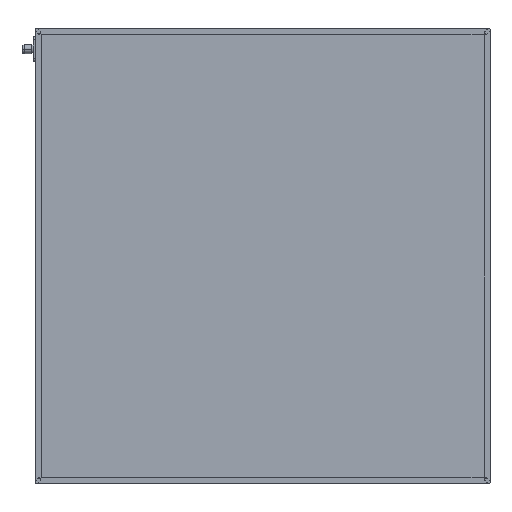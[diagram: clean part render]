
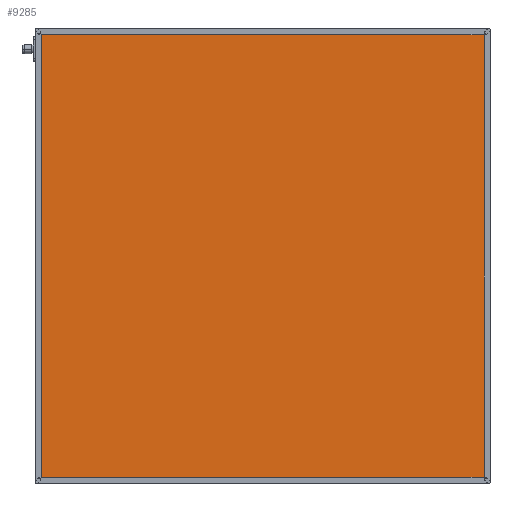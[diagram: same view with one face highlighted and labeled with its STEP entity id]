
A CAD part, top view. The second image highlights one B-rep face of the part: STEP entity #9285.
In plain terms, the highlighted planar face has unit normal (0, 0, 1).
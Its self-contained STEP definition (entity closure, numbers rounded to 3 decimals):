
#575 = DIRECTION ( 'NONE',  ( 0., 1., 0. ) ) ;
#1511 = VERTEX_POINT ( 'NONE', #13592 ) ;
#1984 = EDGE_LOOP ( 'NONE', ( #10410, #3524, #10384, #16535 ) ) ;
#2074 = CARTESIAN_POINT ( 'NONE',  ( 596., 596., 41.85 ) ) ;
#2295 = CARTESIAN_POINT ( 'NONE',  ( 0., 4., 41.85 ) ) ;
#2787 = CARTESIAN_POINT ( 'NONE',  ( 596., 0., 41.85 ) ) ;
#3133 = EDGE_CURVE ( 'NONE', #5807, #9081, #14324, .T. ) ;
#3524 = ORIENTED_EDGE ( 'NONE', *, *, #11915, .T. ) ;
#3914 = DIRECTION ( 'NONE',  ( -1., 0., 0. ) ) ;
#4070 = FACE_OUTER_BOUND ( 'NONE', #1984, .T. ) ;
#4767 = EDGE_CURVE ( 'NONE', #9081, #7685, #8012, .T. ) ;
#5399 = AXIS2_PLACEMENT_3D ( 'NONE', #16580, #6771, #5559 ) ;
#5559 = DIRECTION ( 'NONE',  ( -1., 0., 0. ) ) ;
#5807 = VERTEX_POINT ( 'NONE', #11625 ) ;
#6376 = LINE ( 'NONE', #15705, #15731 ) ;
#6438 = LINE ( 'NONE', #13329, #15744 ) ;
#6771 = DIRECTION ( 'NONE',  ( 0., 0., -1. ) ) ;
#7685 = VERTEX_POINT ( 'NONE', #2074 ) ;
#8012 = LINE ( 'NONE', #2787, #16990 ) ;
#9081 = VERTEX_POINT ( 'NONE', #11744 ) ;
#9285 = ADVANCED_FACE ( 'NONE', ( #4070 ), #14875, .F. ) ;
#10384 = ORIENTED_EDGE ( 'NONE', *, *, #10860, .T. ) ;
#10410 = ORIENTED_EDGE ( 'NONE', *, *, #4767, .T. ) ;
#10860 = EDGE_CURVE ( 'NONE', #1511, #5807, #6376, .T. ) ;
#11625 = CARTESIAN_POINT ( 'NONE',  ( 4., 4., 41.85 ) ) ;
#11744 = CARTESIAN_POINT ( 'NONE',  ( 596., 4., 41.85 ) ) ;
#11915 = EDGE_CURVE ( 'NONE', #7685, #1511, #6438, .T. ) ;
#13329 = CARTESIAN_POINT ( 'NONE',  ( 0., 596., 41.85 ) ) ;
#13592 = CARTESIAN_POINT ( 'NONE',  ( 4., 596., 41.85 ) ) ;
#14151 = DIRECTION ( 'NONE',  ( 0., -1., 0. ) ) ;
#14324 = LINE ( 'NONE', #2295, #15900 ) ;
#14875 = PLANE ( 'NONE',  #5399 ) ;
#15705 = CARTESIAN_POINT ( 'NONE',  ( 4., 0., 41.85 ) ) ;
#15731 = VECTOR ( 'NONE', #14151, 1000. ) ;
#15744 = VECTOR ( 'NONE', #3914, 1000. ) ;
#15900 = VECTOR ( 'NONE', #17206, 1000. ) ;
#16535 = ORIENTED_EDGE ( 'NONE', *, *, #3133, .T. ) ;
#16580 = CARTESIAN_POINT ( 'NONE',  ( 0., 0., 41.85 ) ) ;
#16990 = VECTOR ( 'NONE', #575, 1000. ) ;
#17206 = DIRECTION ( 'NONE',  ( 1., 0., 0. ) ) ;
